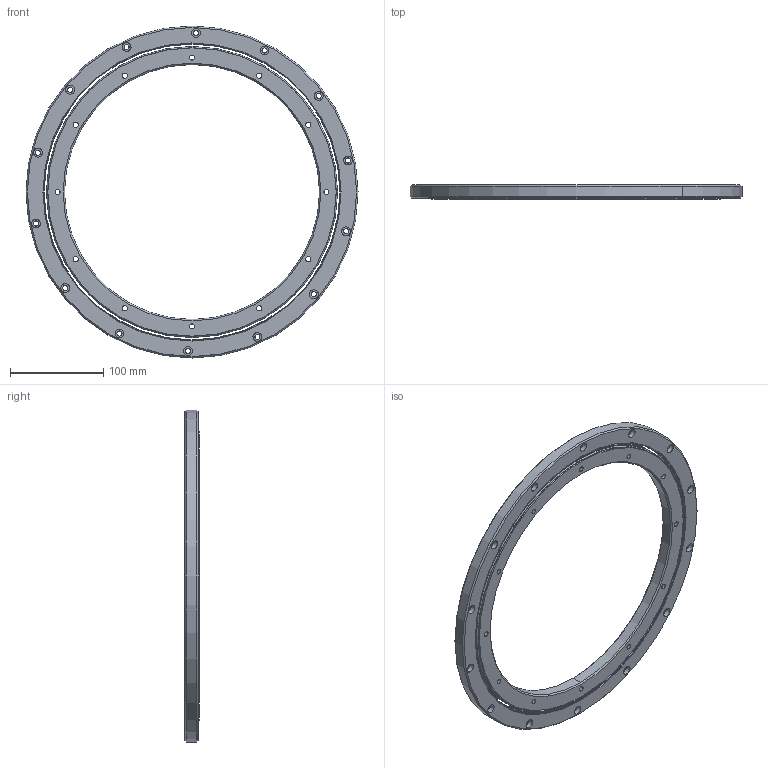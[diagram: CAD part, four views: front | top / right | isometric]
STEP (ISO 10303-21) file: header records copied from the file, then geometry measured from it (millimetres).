
FILE_DESCRIPTION (( 'STEP AP214' ), '1' );
FILE_NAME ('TTS2-274-357-15 Bearing Assembly.STEP', '2018-03-14T15:23:04', ( 'Admin' ), ( '' ), 'SwSTEP 2.0', 'SolidWorks 2018', '' );
FILE_SCHEMA (( 'AUTOMOTIVE_DESIGN' ));
Length unit declared in the file: inch
Products named in the file (3): TTS2-274-357-15 Bearing Assembly; TTS2 Outer Ring_TTS2-274-357-15; TTS2 Inner Ring_TTS2-274-357-15
Assembly tree (2 placements, depth 2):
  TTS2-274-357-15 Bearing Assembly
    TTS2 Inner Ring_TTS2-274-357-15
    TTS2 Outer Ring_TTS2-274-357-15
Bounding box: 355.6 x 15 x 355.6 mm (x, y, z)
Volume: 498133.5 mm3; surface area: 135271.7 mm2
Topology: 2 solids, 2 shells, 210 faces, 472 edges, 294 vertices
Faces by surface type: cylinder 128, plane 32, cone 28, torus 22
Entity records: 6192 total; most frequent: DIRECTION 1218, CARTESIAN_POINT 981, ORIENTED_EDGE 944, AXIS2_PLACEMENT_3D 531, EDGE_CURVE 472, CIRCLE 316, EDGE_LOOP 294, VERTEX_POINT 294
